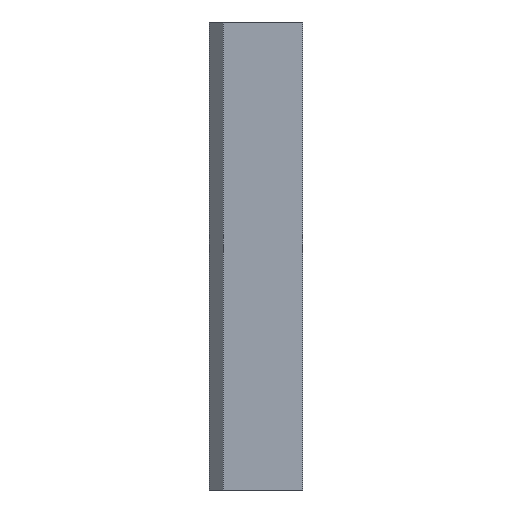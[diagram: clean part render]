
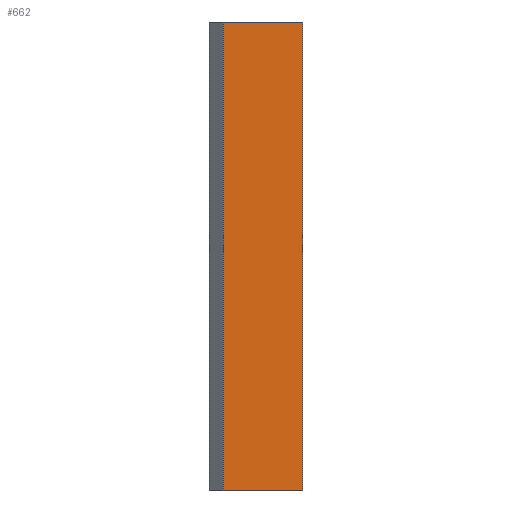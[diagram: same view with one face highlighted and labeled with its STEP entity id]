
A CAD part, front view. The second image highlights one B-rep face of the part: STEP entity #662.
In plain terms, the highlighted planar face has unit normal (0, -1, 0).
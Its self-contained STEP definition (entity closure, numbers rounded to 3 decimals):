
#286=CARTESIAN_POINT('Vertex',(20.,0.,-50.)) ;
#289=CARTESIAN_POINT('Line Origine',(11.5,0.,-50.)) ;
#293=CARTESIAN_POINT('Vertex',(3.,0.,-50.)) ;
#316=CARTESIAN_POINT('Line Origine',(3.,0.,0.)) ;
#320=CARTESIAN_POINT('Vertex',(3.,0.,50.)) ;
#340=CARTESIAN_POINT('Line Origine',(11.5,0.,50.)) ;
#344=CARTESIAN_POINT('Vertex',(20.,0.,50.)) ;
#571=CARTESIAN_POINT('Line Origine',(20.,0.,0.)) ;
#651=CARTESIAN_POINT('Axis2P3D Location',(3.,0.,50.)) ;
#290=DIRECTION('Vector Direction',(1.,0.,0.)) ;
#317=DIRECTION('Vector Direction',(0.,0.,-1.)) ;
#341=DIRECTION('Vector Direction',(1.,0.,0.)) ;
#572=DIRECTION('Vector Direction',(0.,0.,-1.)) ;
#652=DIRECTION('Axis2P3D Direction',(0.,1.,0.)) ;
#653=DIRECTION('Axis2P3D XDirection',(0.,-0.,1.)) ;
#654=AXIS2_PLACEMENT_3D('Plane Axis2P3D',#651,#652,#653) ;
#657=ORIENTED_EDGE('',*,*,#295,.T.) ;
#658=ORIENTED_EDGE('',*,*,#575,.F.) ;
#659=ORIENTED_EDGE('',*,*,#346,.F.) ;
#660=ORIENTED_EDGE('',*,*,#322,.T.) ;
#291=VECTOR('Line Direction',#290,1.) ;
#318=VECTOR('Line Direction',#317,1.) ;
#342=VECTOR('Line Direction',#341,1.) ;
#573=VECTOR('Line Direction',#572,1.) ;
#662=ADVANCED_FACE('A915-100X250',(#661),#655,.F.) ;
#295=EDGE_CURVE('',#294,#287,#292,.T.) ;
#322=EDGE_CURVE('',#321,#294,#319,.T.) ;
#346=EDGE_CURVE('',#321,#345,#343,.T.) ;
#575=EDGE_CURVE('',#345,#287,#574,.T.) ;
#656=EDGE_LOOP('',(#657,#658,#659,#660)) ;
#661=FACE_OUTER_BOUND('',#656,.T.) ;
#292=LINE('Line',#289,#291) ;
#319=LINE('Line',#316,#318) ;
#343=LINE('Line',#340,#342) ;
#574=LINE('Line',#571,#573) ;
#655=PLANE('Plane',#654) ;
#287=VERTEX_POINT('',#286) ;
#294=VERTEX_POINT('',#293) ;
#321=VERTEX_POINT('',#320) ;
#345=VERTEX_POINT('',#344) ;
